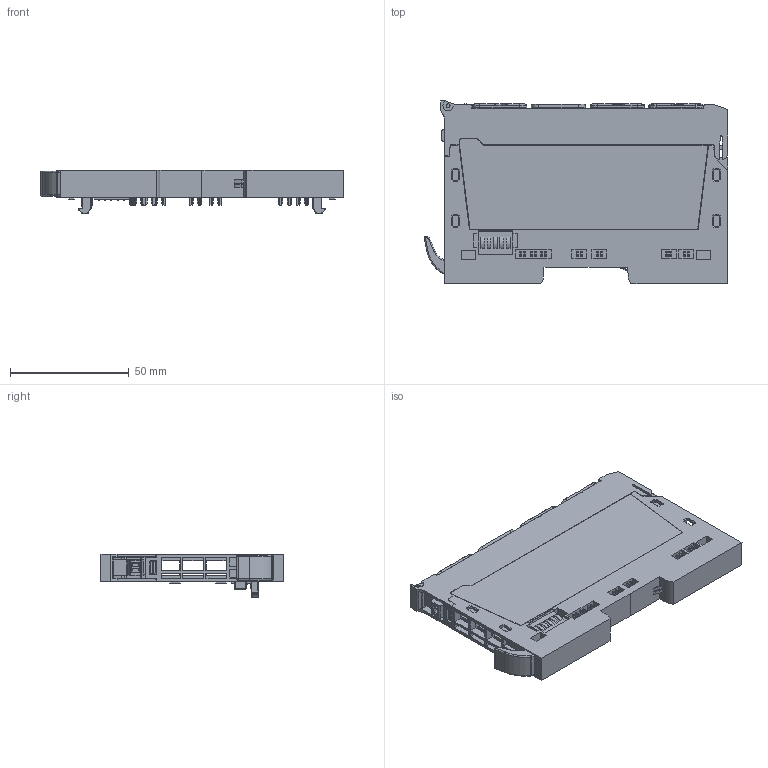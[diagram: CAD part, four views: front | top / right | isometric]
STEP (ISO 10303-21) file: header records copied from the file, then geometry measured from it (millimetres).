
FILE_DESCRIPTION(('CATIA V5R19 STEP'),'2;1');
FILE_NAME('\\srvde068\Desktop\w011128\Gordon Brandlable GE\RT-1901_UR20-PF-O-1DI-SIL.stp','2015-08-11T04:57:52+00:00',('Weidmueller Interface'),('WI'),'CATIA Version 5 Release 20 SP 5 (IN-10)','CATIA V5 STEP AP214','none');
FILE_SCHEMA(('AUTOMOTIVE_DESIGN { 1 0 10303 214 1 1 1 1 }'));
Products named in the file (1): RT-1901_UR20-PF-O-1DI-SIL
Bounding box: 127.88 x 77.45 x 18.5 mm (x, y, z)
Volume: 63293.1 mm3; surface area: 72379.1 mm2
Topology: 20 solids, 32 shells, 5547 faces, 15314 edges, 9896 vertices
Faces by surface type: plane 3744, cylinder 919, bspline 481, cone 254, torus 57, revolution 48, sphere 32, extrusion 12
Entity records: 223351 total; most frequent: CARTESIAN_POINT 59144, ORIENTED_EDGE 30554, DIRECTION 20006, EDGE_CURVE 15277, VECTOR 11282, LINE 11270, VERTEX_POINT 9896, EDGE_LOOP 5797
